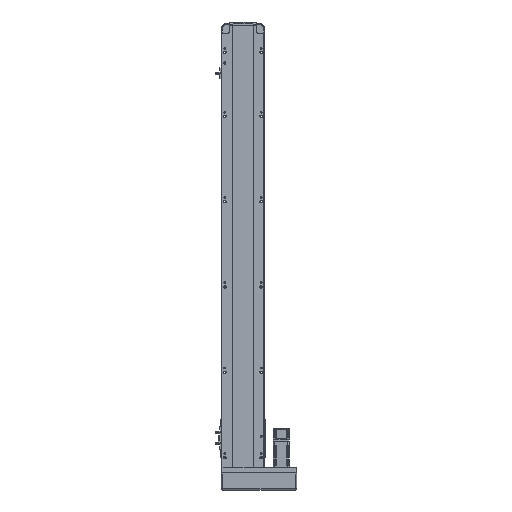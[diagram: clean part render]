
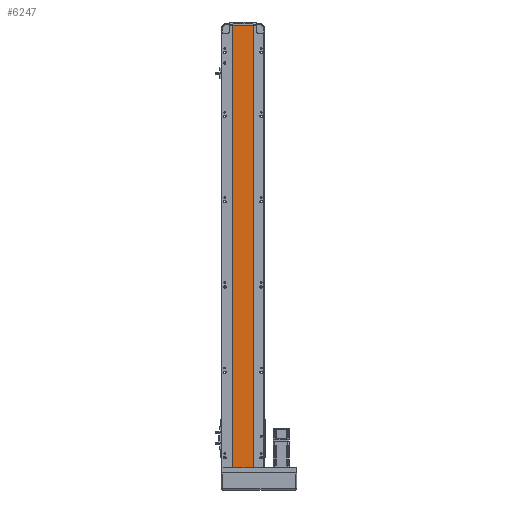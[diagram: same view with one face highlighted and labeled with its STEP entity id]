
A CAD part, front view. The second image highlights one B-rep face of the part: STEP entity #6247.
In plain terms, the highlighted planar face has unit normal (0, -1, 0).
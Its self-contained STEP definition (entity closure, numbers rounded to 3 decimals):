
#2207 = VERTEX_POINT ( 'NONE', #50057 ) ;
#3629 = VECTOR ( 'NONE', #43774, 1000. ) ;
#4235 = DIRECTION ( 'NONE',  ( 0., 0., -1. ) ) ;
#5477 = EDGE_CURVE ( 'NONE', #38440, #20164, #22327, .T. ) ;
#6247 = ADVANCED_FACE ( 'NONE', ( #49383 ), #22183, .F. ) ;
#6359 = AXIS2_PLACEMENT_3D ( 'NONE', #36529, #54065, #40712 ) ;
#7661 = CARTESIAN_POINT ( 'NONE',  ( 24.5, 2., 1037. ) ) ;
#7844 = EDGE_CURVE ( 'NONE', #16029, #2207, #15749, .T. ) ;
#9390 = CARTESIAN_POINT ( 'NONE',  ( -24.5, 2., 1037. ) ) ;
#15749 = LINE ( 'NONE', #44187, #3629 ) ;
#16029 = VERTEX_POINT ( 'NONE', #7661 ) ;
#20164 = VERTEX_POINT ( 'NONE', #21749 ) ;
#21389 = DIRECTION ( 'NONE',  ( 1., 0., 0. ) ) ;
#21749 = CARTESIAN_POINT ( 'NONE',  ( -24.5, 2., 0. ) ) ;
#22183 = PLANE ( 'NONE',  #6359 ) ;
#22327 = LINE ( 'NONE', #9390, #57931 ) ;
#22940 = VECTOR ( 'NONE', #21389, 1000. ) ;
#24018 = ORIENTED_EDGE ( 'NONE', *, *, #7844, .F. ) ;
#29737 = DIRECTION ( 'NONE',  ( 1., 0., 0. ) ) ;
#29936 = CARTESIAN_POINT ( 'NONE',  ( 0., 2., 0. ) ) ;
#31501 = LINE ( 'NONE', #34548, #22940 ) ;
#32292 = ORIENTED_EDGE ( 'NONE', *, *, #48161, .F. ) ;
#32585 = VECTOR ( 'NONE', #29737, 1000. ) ;
#33767 = CARTESIAN_POINT ( 'NONE',  ( -24.5, 2., 1037. ) ) ;
#34548 = CARTESIAN_POINT ( 'NONE',  ( -24.5, 2., 1037. ) ) ;
#36529 = CARTESIAN_POINT ( 'NONE',  ( 0., 2., 1037. ) ) ;
#37318 = ORIENTED_EDGE ( 'NONE', *, *, #58833, .T. ) ;
#38440 = VERTEX_POINT ( 'NONE', #33767 ) ;
#40712 = DIRECTION ( 'NONE',  ( 0., 0., 1. ) ) ;
#43774 = DIRECTION ( 'NONE',  ( 0., 0., -1. ) ) ;
#44187 = CARTESIAN_POINT ( 'NONE',  ( 24.5, 2., 1037. ) ) ;
#47771 = ORIENTED_EDGE ( 'NONE', *, *, #5477, .T. ) ;
#48161 = EDGE_CURVE ( 'NONE', #38440, #16029, #31501, .T. ) ;
#49383 = FACE_OUTER_BOUND ( 'NONE', #54870, .T. ) ;
#50057 = CARTESIAN_POINT ( 'NONE',  ( 24.5, 2., 0. ) ) ;
#53935 = LINE ( 'NONE', #29936, #32585 ) ;
#54065 = DIRECTION ( 'NONE',  ( 0., 1., 0. ) ) ;
#54870 = EDGE_LOOP ( 'NONE', ( #37318, #24018, #32292, #47771 ) ) ;
#57931 = VECTOR ( 'NONE', #4235, 1000. ) ;
#58833 = EDGE_CURVE ( 'NONE', #20164, #2207, #53935, .T. ) ;
